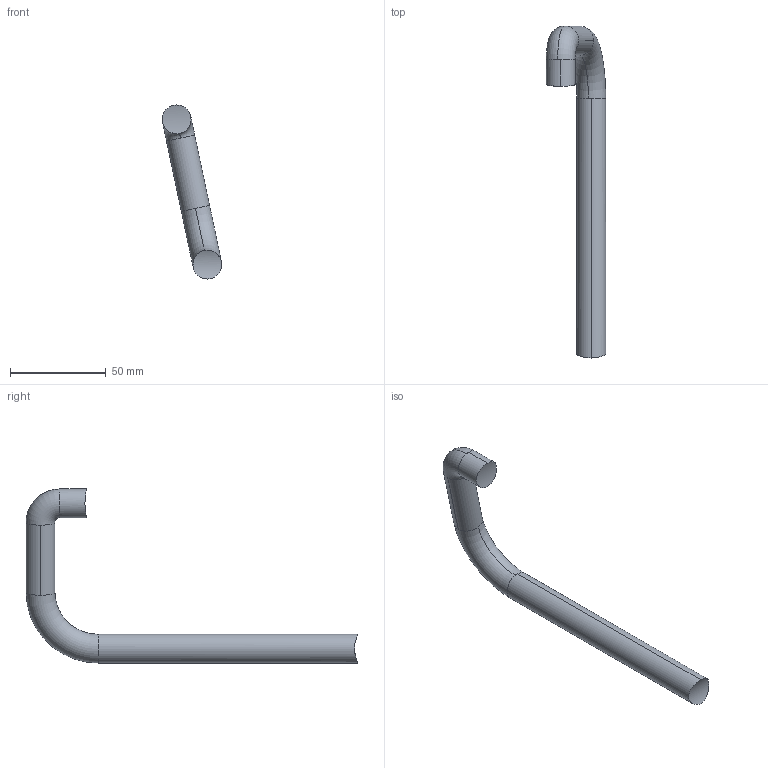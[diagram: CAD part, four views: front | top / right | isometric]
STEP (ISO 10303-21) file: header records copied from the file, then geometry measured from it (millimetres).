
FILE_DESCRIPTION (( 'STEP AP203' ), '1' );
FILE_NAME ('waterpipe.STEP', '2021-06-04T13:49:36', ( '' ), ( '' ), 'SwSTEP 2.0', 'SolidWorks 2016', '' );
FILE_SCHEMA (( 'CONFIG_CONTROL_DESIGN' ));
Length unit declared in the file: centimetre
Products named in the file (1): waterpipe
Bounding box: 31 x 172.88 x 90.7 mm (x, y, z)
Volume: 43766 mm3; surface area: 12059.6 mm2
Topology: 1 solids, 1 shells, 12 faces, 30 edges, 20 vertices
Faces by surface type: cylinder 8, torus 4
Entity records: 626 total; most frequent: CARTESIAN_POINT 246, DIRECTION 72, ORIENTED_EDGE 60, AXIS2_PLACEMENT_3D 33, EDGE_CURVE 30, CIRCLE 20, VERTEX_POINT 20, ADVANCED_FACE 12
